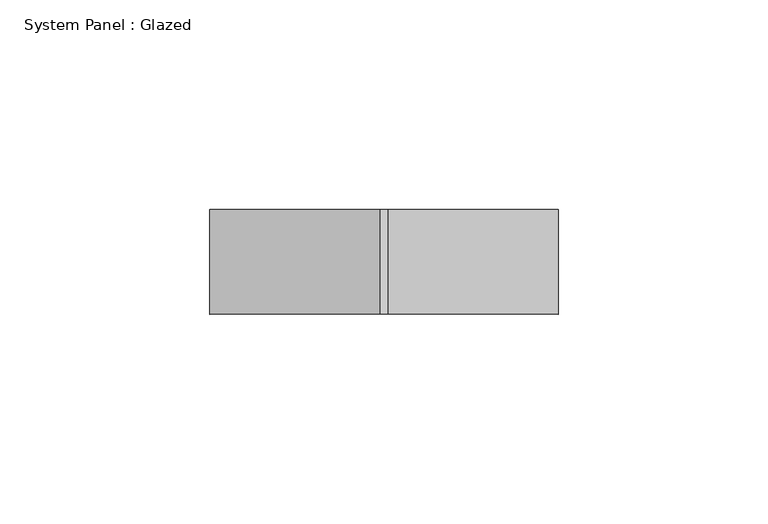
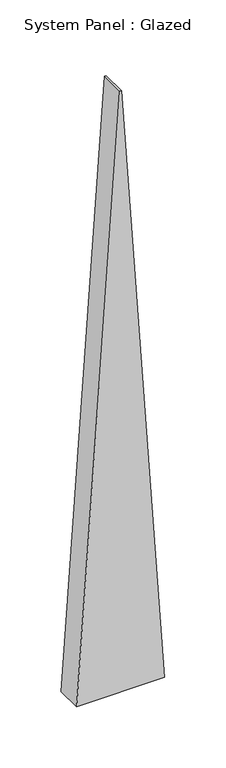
"""IFC4 building model written with IfcOpenShell, lengths in millimetres: plate geometry, System Panel : Glazed."""

import ifcopenshell
import ifcopenshell.guid

model = None  # the IFC model being written
_history = None  # IfcOwnerHistory: only IFC2X3 demands one
_inside = {}  # id of a spatial element -> (the spatial element, [elements in it])
_under = {}  # id of a project, library or spatial element -> (it, [spatial elements below it])
_declared = {}  # id of a project -> (the project, [libraries it declares])
_typed = {}  # id of a type object -> (the type object, [elements of that type])
_made_of = {}  # id of a material, layer set ... -> (it, [elements and type objects made of it])


def new_model(schema):
    """Start an empty IFC model of exactly this schema.

    Asked for "IFC4X3", IfcOpenShell would pick the latest addendum, in which some entities
    have other attributes; the version numbers below select the first issue.
    IFC2X3 requires an IfcOwnerHistory on every rooted entity: one is made here for all.
    """
    global model, _history
    if schema == "IFC4X3":
        model = ifcopenshell.file(schema_version=(4, 3, 0, 0))
    else:
        model = ifcopenshell.file(schema=schema)
    _inside.clear()
    _under.clear()
    _declared.clear()
    _typed.clear()
    _made_of.clear()
    _history = None
    if model.schema == "IFC2X3":
        org = make("IfcOrganization", Name="unknown")
        user = make(
            "IfcPersonAndOrganization",
            ThePerson=make("IfcPerson", FamilyName="unknown"),
            TheOrganization=org,
        )
        app = make(
            "IfcApplication",
            ApplicationDeveloper=org,
            Version="unknown",
            ApplicationFullName="unknown",
            ApplicationIdentifier="unknown",
        )
        _history = make(
            "IfcOwnerHistory",
            OwningUser=user,
            OwningApplication=app,
            ChangeAction="ADDED",
            CreationDate=0,
        )
    return model


def make(cls, **values):
    """One entity of the class cls with the attributes given. An attribute that is None is left unset."""
    return model.create_entity(
        cls, **{name: value for name, value in values.items() if value is not None}
    )


def rooted(cls, **values):
    """An entity with a GlobalId (a new one), such as an element, a storey or a relation."""
    return make(cls, GlobalId=ifcopenshell.guid.new(), OwnerHistory=_history, **values)


def si_unit(unit_type, name, prefix=None):
    """IfcSIUnit, for example si_unit("LENGTHUNIT", "METRE", prefix="MILLI")."""
    return make("IfcSIUnit", UnitType=unit_type, Prefix=prefix, Name=name)


def assignment(units):
    """IfcUnitAssignment: the units of a project."""
    return None if units is None else make("IfcUnitAssignment", Units=units)


def point(xyz):
    """IfcCartesianPoint."""
    return None if xyz is None else make("IfcCartesianPoint", Coordinates=xyz)


def direction(xyz):
    """IfcDirection."""
    return None if xyz is None else make("IfcDirection", DirectionRatios=xyz)


def frame(location, z_axis=None, x_axis=None):
    """IfcAxis2Placement3D, a coordinate frame: its origin and axes. An axis left out is left unset."""
    return make(
        "IfcAxis2Placement3D",
        Location=point(location),
        Axis=direction(z_axis),
        RefDirection=direction(x_axis),
    )


def origin():
    """The frame at (0, 0, 0) with its axes left unset."""
    return frame((0.0, 0.0, 0.0))


def place(relative_to, where):
    """IfcLocalPlacement: puts the frame where relative to a parent placement (None: the world)."""
    return make(
        "IfcLocalPlacement", PlacementRelTo=relative_to, RelativePlacement=where
    )


def context(
    kind, dimensions, precision=None, world=None, true_north=None, identifier=None
):
    """IfcGeometricRepresentationContext, for example the 3D "Model" context."""
    return make(
        "IfcGeometricRepresentationContext",
        ContextIdentifier=identifier,
        ContextType=kind,
        CoordinateSpaceDimension=dimensions,
        Precision=precision,
        WorldCoordinateSystem=world,
        TrueNorth=true_north,
    )


def project(units=None, contexts=None):
    """IfcProject with its units and contexts."""
    return rooted(
        "IfcProject",
        Name="project",
        RepresentationContexts=contexts,
        UnitsInContext=assignment(units),
    )


def spatial(cls, under=None, at=None, **own):
    """A site, building, storey or space (cls), placed at a placement, below another one or the project."""
    s = rooted(cls, ObjectPlacement=at, **own)
    if under is not None:
        _under.setdefault(under.id(), (under, []))[1].append(s)
    return s


def polyline(points):
    """IfcPolyline through the points."""
    return make("IfcPolyline", Points=[point(p) for p in points])


def outline(outer, holes=None, kind="AREA"):
    """IfcArbitraryClosedProfileDef: a profile drawn as a closed curve; with holes, ...WithVoids."""
    if holes is None:
        return make("IfcArbitraryClosedProfileDef", ProfileType=kind, OuterCurve=outer)
    return make(
        "IfcArbitraryProfileDefWithVoids",
        ProfileType=kind,
        OuterCurve=outer,
        InnerCurves=holes,
    )


def extrude(swept, where, along, depth):
    """IfcExtrudedAreaSolid: the profile swept, set in the frame where, extruded along a direction by depth."""
    return make(
        "IfcExtrudedAreaSolid",
        SweptArea=swept,
        Position=where,
        ExtrudedDirection=direction(along),
        Depth=depth,
    )


def shape(context_of_items, identifier, shape_type, items):
    """IfcShapeRepresentation: the items that make up one representation, for example the "Body"."""
    return make(
        "IfcShapeRepresentation",
        ContextOfItems=context_of_items,
        RepresentationIdentifier=identifier,
        RepresentationType=shape_type,
        Items=items,
    )


def source(mapping_origin, context_of_items, identifier, shape_type, items):
    """IfcRepresentationMap: a shape defined once, which mapped items show again and again."""
    return make(
        "IfcRepresentationMap",
        MappingOrigin=mapping_origin,
        MappedRepresentation=shape(context_of_items, identifier, shape_type, items),
    )


def transform(
    local_origin,
    x_axis=None,
    y_axis=None,
    z_axis=None,
    scale=None,
    scale2=None,
    scale3=None,
    uniform=True,
):
    """IfcCartesianTransformationOperator3D, or its non-uniform kind. x_axis, y_axis, z_axis: its Axis1, 2, 3."""
    if uniform:
        return make(
            "IfcCartesianTransformationOperator3D",
            Axis1=direction(x_axis),
            Axis2=direction(y_axis),
            LocalOrigin=point(local_origin),
            Scale=scale,
            Axis3=direction(z_axis),
        )
    return make(
        "IfcCartesianTransformationOperator3DnonUniform",
        Axis1=direction(x_axis),
        Axis2=direction(y_axis),
        LocalOrigin=point(local_origin),
        Scale=scale,
        Axis3=direction(z_axis),
        Scale2=scale2,
        Scale3=scale3,
    )


def mapped(mapping_source, mapping_target):
    """IfcMappedItem: shows the shape of a source again, moved by a transform."""
    return make(
        "IfcMappedItem", MappingSource=mapping_source, MappingTarget=mapping_target
    )


def made_of(thing, what):
    """Note that an element or type object is made of a material, layer set ...; save() writes the relation."""
    if what is not None:
        _made_of.setdefault(what.id(), (what, []))[1].append(thing)
    return thing


def element(
    cls,
    number,
    at=None,
    inside=None,
    cuts=None,
    type_object=None,
    material=None,
    context=None,
    identifier="Body",
    shape_type=None,
    held_by="IfcProductDefinitionShape",
    body=None,
    shapes=None,
    **own,
):
    """One element of the class cls, such as IfcWall. Its Tag is "e" and its number.

    at: its placement. inside: the storey or other place that contains it. cuts: it is an
    opening in that element (IfcRelVoidsElement). A single representation is given by context,
    identifier, shape_type and body (its items); several are given by shapes. held_by: the class
    of the entity that holds the representations. save() writes the other relations.
    """
    e = rooted(cls, Tag="e%d" % number, ObjectPlacement=at, **own)
    if body is not None:
        shapes = [shape(context, identifier, shape_type, body)]
    if shapes is not None:
        e.Representation = make(held_by, Representations=shapes)
    if inside is not None:
        _inside.setdefault(inside.id(), (inside, []))[1].append(e)
    if cuts is not None:
        rooted(
            "IfcRelVoidsElement", RelatingBuildingElement=cuts, RelatedOpeningElement=e
        )
    if type_object is not None:
        _typed.setdefault(type_object.id(), (type_object, []))[1].append(e)
    return made_of(e, material)


def aggregate(whole, parts):
    """IfcRelAggregates: a whole, such as a stair, and the parts it consists of."""
    return rooted("IfcRelAggregates", RelatingObject=whole, RelatedObjects=parts)


def save(model, path):
    """Write the relations noted so far, then the file.

    IfcRelAggregates (storeys below a building ...), IfcRelContainedInSpatialStructure (elements
    in a storey), IfcRelDefinesByType, IfcRelAssociatesMaterial and IfcRelDeclares: one each for
    every whole, place, type object, material and project.
    """
    for whole, parts in _under.values():
        aggregate(whole, parts)
    for where, things in _inside.values():
        rooted(
            "IfcRelContainedInSpatialStructure",
            RelatedElements=things,
            RelatingStructure=where,
        )
    for kind, things in _typed.values():
        rooted("IfcRelDefinesByType", RelatedObjects=things, RelatingType=kind)
    for what, things in _made_of.values():
        rooted("IfcRelAssociatesMaterial", RelatedObjects=things, RelatingMaterial=what)
    for by, libraries in _declared.values():
        rooted("IfcRelDeclares", RelatingContext=by, RelatedDefinitions=libraries)
    model.write(path)


def system_panel_glazed_cf8c54f4(model_context):
    return source(origin(), model_context, "Body", "SweptSolid", [
        extrude(outline(polyline([(0.0, -41.6441044), (0.0, 41.6441044), (598.6107878, 0.8381647), (598.6107878, -0.8381647), (0.0, -41.6441044)])), frame((0.0, 24.5, 0.0), z_axis=(0.0, 1.0, 0.0), x_axis=(0.0, 0.0, 1.0)), (0.0, 0.0, 1.0), 25.0),
    ])


if __name__ == "__main__":
    model = new_model("IFC4")
    model_context = context("Model", 3, world=origin())
    ifc_project = project(units=[si_unit("LENGTHUNIT", "METRE", prefix="MILLI")], contexts=[model_context])
    site = spatial("IfcSite", under=ifc_project)
    building = spatial("IfcBuilding", under=site)
    placement = place(None, origin())
    system_panel_glazed_shape = system_panel_glazed_cf8c54f4(model_context)
    element("IfcPlate", 1, ObjectType="System Panel : Glazed", at=placement, inside=building, context=model_context, shape_type="MappedRepresentation", body=[
        mapped(system_panel_glazed_shape, transform((0.0, 0.0, 0.0), x_axis=(1.0, 0.0, 0.0), y_axis=(0.0, 1.0, 0.0), z_axis=(0.0, 0.0, 1.0))),
    ])
    save(model, "model.ifc")
